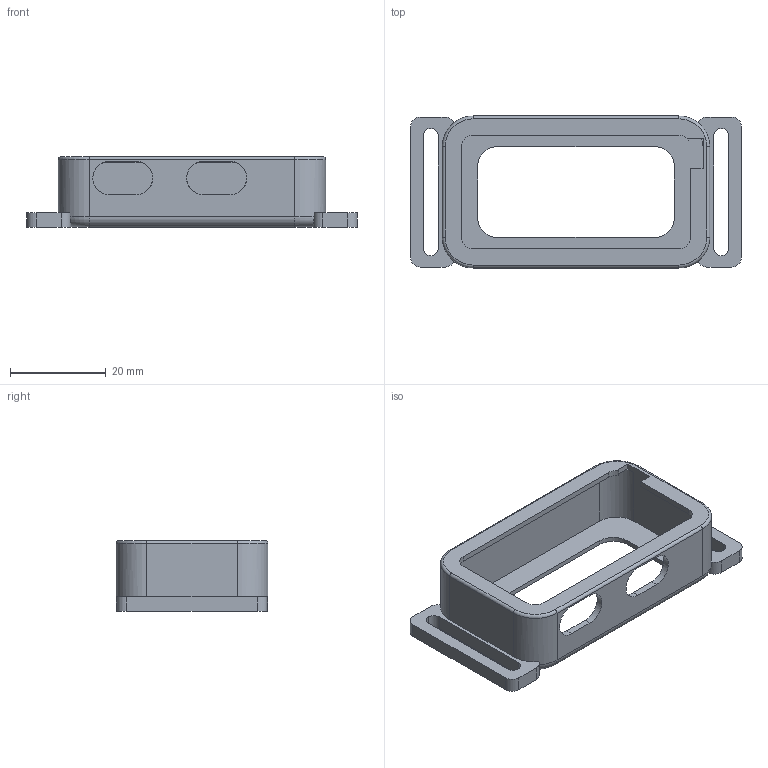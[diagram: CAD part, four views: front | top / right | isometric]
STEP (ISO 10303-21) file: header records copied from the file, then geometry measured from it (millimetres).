
FILE_DESCRIPTION(('Open CASCADE Model'),'2;1');
FILE_NAME('Open CASCADE Shape Model','2026-11-03T19:16:52',('Author'),( 'Open CASCADE'),'Open CASCADE STEP processor 7.9','Open CASCADE 7.9' ,'Unknown');
FILE_SCHEMA(('AUTOMOTIVE_DESIGN { 1 0 10303 214 1 1 1 1 }'));
Length unit declared in the file: millimetre
Products named in the file (1): Open CASCADE STEP translator 7.9 8
Bounding box: 69 x 31.7 x 14.7 mm (x, y, z)
Volume: 4938.6 mm3; surface area: 7953.8 mm2
Topology: 1 solids, 1 shells, 100 faces, 285 edges, 186 vertices
Faces by surface type: plane 50, cylinder 42, torus 8
Entity records: 7341 total; most frequent: CARTESIAN_POINT 1803, DIRECTION 998, ORIENTED_EDGE 570, PCURVE 570, DEFINITIONAL_REPRESENTATION 570, LINE 522, VECTOR 522, EDGE_CURVE 285
